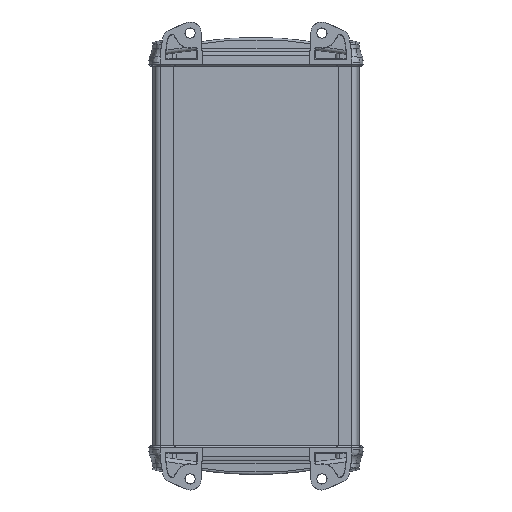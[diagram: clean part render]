
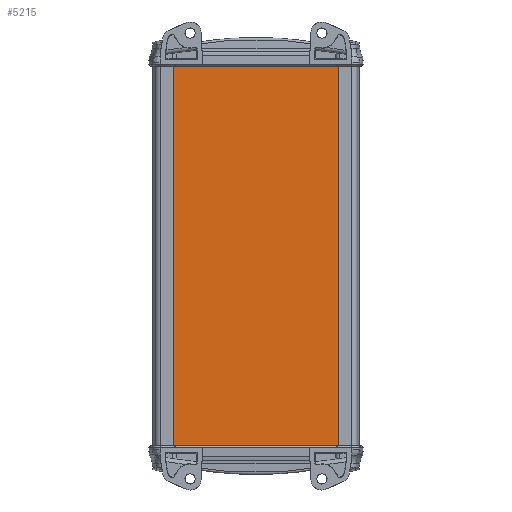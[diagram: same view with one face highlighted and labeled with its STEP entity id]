
A CAD part, front view. The second image highlights one B-rep face of the part: STEP entity #5215.
In plain terms, the highlighted planar face has unit normal (0, -1, 0).
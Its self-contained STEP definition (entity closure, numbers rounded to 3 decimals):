
#5159=CARTESIAN_POINT('',(42.5,-24.5,200.0));
#5160=VERTEX_POINT('',#5159);
#5167=CARTESIAN_POINT('',(42.5,-24.5,0.0));
#5168=VERTEX_POINT('',#5167);
#5169=CARTESIAN_POINT('',(42.5,-24.5,0.0));
#5170=DIRECTION('',(0.0,0.0,1.0));
#5171=VECTOR('',#5170,200.0);
#5172=LINE('',#5169,#5171);
#5173=EDGE_CURVE('',#5168,#5160,#5172,.T.);
#5185=CARTESIAN_POINT('',(42.5,-24.5,0.0));
#5186=DIRECTION('',(0.0,-1.0,0.0));
#5187=DIRECTION('',(0.0,0.0,-1.0));
#5188=AXIS2_PLACEMENT_3D('',#5185,#5186,#5187);
#5189=PLANE('',#5188);
#5190=CARTESIAN_POINT('',(-42.5,-24.5,200.0));
#5191=VERTEX_POINT('',#5190);
#5192=CARTESIAN_POINT('',(42.5,-24.5,200.0));
#5193=DIRECTION('',(-1.0,0.0,0.0));
#5194=VECTOR('',#5193,85.);
#5195=LINE('',#5192,#5194);
#5196=EDGE_CURVE('',#5160,#5191,#5195,.T.);
#5197=ORIENTED_EDGE('',*,*,#5196,.T.);
#5198=CARTESIAN_POINT('',(-42.5,-24.5,0.0));
#5199=VERTEX_POINT('',#5198);
#5200=CARTESIAN_POINT('',(-42.5,-24.5,0.0));
#5201=DIRECTION('',(0.0,0.0,1.0));
#5202=VECTOR('',#5201,200.0);
#5203=LINE('',#5200,#5202);
#5204=EDGE_CURVE('',#5199,#5191,#5203,.T.);
#5205=ORIENTED_EDGE('',*,*,#5204,.F.);
#5206=CARTESIAN_POINT('',(42.5,-24.5,0.0));
#5207=DIRECTION('',(-1.0,0.0,0.0));
#5208=VECTOR('',#5207,85.);
#5209=LINE('',#5206,#5208);
#5210=EDGE_CURVE('',#5168,#5199,#5209,.T.);
#5211=ORIENTED_EDGE('',*,*,#5210,.F.);
#5212=ORIENTED_EDGE('',*,*,#5173,.T.);
#5213=EDGE_LOOP('',(#5197,#5205,#5211,#5212));
#5214=FACE_OUTER_BOUND('',#5213,.T.);
#5215=ADVANCED_FACE('',(#5214),#5189,.T.);
